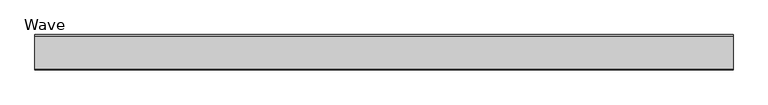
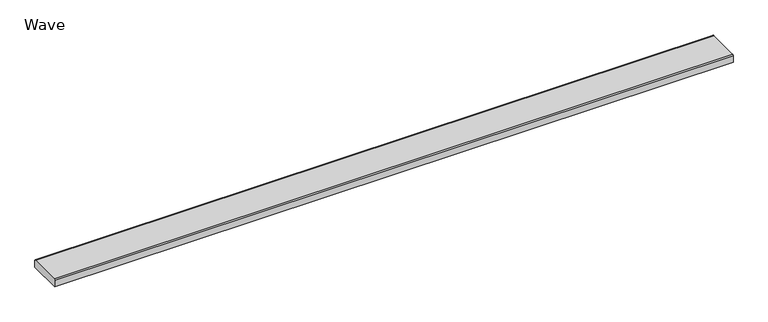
"""IFC4 building model written with IfcOpenShell, lengths in millimetres: sanitary terminal geometry, ZZZ_do not use_PF_ST_UN_grating ShowerDrain C GE_ACO : Wave."""

from ifc_helpers import new_model, si_unit, point, frame, frame_2d, origin, place, context, project, spatial, polyline, circle_curve, trimmed, segment, composite_curve, outline, extrude, source, transform, mapped, element, save


def wave_64a26ff7(model_context):
    return source(origin(), model_context, "Body", "SweptSolid", [
        extrude(outline(composite_curve([segment(polyline([(30.0, -14.0), (-30.0, -14.0), (-30.0, -1.977849)]), True, "CONTINUOUS"), segment(trimmed(circle_curve(frame_2d((-28.022151, -1.977849)), 1.977849), [point((-30.0, -1.977849))], [point((-28.022151, 0.0))], False, "CARTESIAN"), True, "CONTINUOUS"), segment(polyline([(-28.022151, 0.0), (28.022151, 0.0)]), True, "CONTINUOUS"), segment(trimmed(circle_curve(frame_2d((28.022151, -1.977849)), 1.977849), [point((28.022151, 0.0))], [point((30.0, -1.977849))], False, "CARTESIAN"), True, "CONTINUOUS"), segment(polyline([(30.0, -1.977849), (30.0, -14.0)]), True, "CONTINUOUS")], self_intersect=False)), frame((-590.5, 0.0, 0.0), z_axis=(1.0, 0.0, 0.0), x_axis=(0.0, 1.0, 0.0)), (0.0, 0.0, 1.0), 1181.0),
    ])


if __name__ == "__main__":
    model = new_model("IFC4")
    model_context = context("Model", 3, world=origin())
    ifc_project = project(units=[si_unit("LENGTHUNIT", "METRE", prefix="MILLI")], contexts=[model_context])
    site = spatial("IfcSite", under=ifc_project)
    building = spatial("IfcBuilding", under=site)
    placement = place(None, origin())
    ifc_wave_shape = wave_64a26ff7(model_context)
    element("IfcSanitaryTerminal", 1, ObjectType="ZZZ_do not use_PF_ST_UN_grating ShowerDrain C GE_ACO : Wave", at=placement, inside=building, context=model_context, shape_type="MappedRepresentation", body=[
        mapped(ifc_wave_shape, transform((0.0, 0.0, 0.0), x_axis=(1.0, 0.0, 0.0), y_axis=(0.0, 1.0, 0.0), z_axis=(0.0, 0.0, 1.0))),
    ])
    save(model, "model.ifc")
